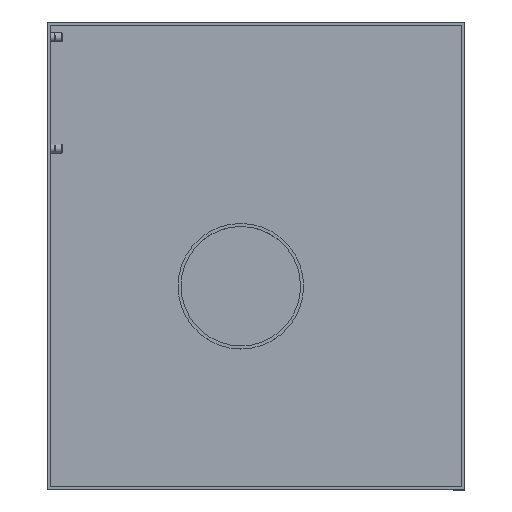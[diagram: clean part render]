
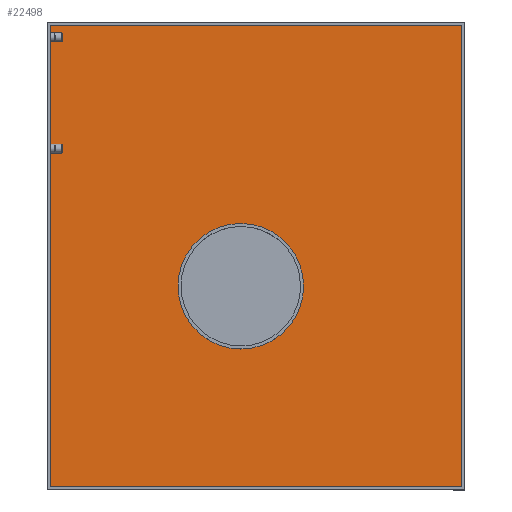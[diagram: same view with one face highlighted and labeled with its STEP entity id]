
A CAD part, top view. The second image highlights one B-rep face of the part: STEP entity #22498.
In plain terms, the highlighted planar face has unit normal (0, 0, 1).
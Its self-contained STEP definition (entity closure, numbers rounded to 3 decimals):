
#218=PLANE('',#23295);
#400=FACE_BOUND('',#3769,.T.);
#2373=FACE_OUTER_BOUND('',#3768,.T.);
#3768=EDGE_LOOP('',(#20503,#20504,#20505,#20506));
#3769=EDGE_LOOP('',(#20507));
#5404=CIRCLE('',#23123,62.);
#7048=LINE('',#54284,#8621);
#7049=LINE('',#54286,#8622);
#7050=LINE('',#54288,#8623);
#7051=LINE('',#54289,#8624);
#8621=VECTOR('',#26406,10.);
#8622=VECTOR('',#26407,10.);
#8623=VECTOR('',#26408,10.);
#8624=VECTOR('',#26409,10.);
#10652=VERTEX_POINT('',#53822);
#10805=VERTEX_POINT('',#54282);
#10806=VERTEX_POINT('',#54283);
#10807=VERTEX_POINT('',#54285);
#10808=VERTEX_POINT('',#54287);
#13836=EDGE_CURVE('',#10652,#10652,#5404,.T.);
#14049=EDGE_CURVE('',#10805,#10806,#7048,.T.);
#14050=EDGE_CURVE('',#10806,#10807,#7049,.T.);
#14051=EDGE_CURVE('',#10807,#10808,#7050,.T.);
#14052=EDGE_CURVE('',#10805,#10808,#7051,.T.);
#20503=ORIENTED_EDGE('',*,*,#14049,.T.);
#20504=ORIENTED_EDGE('',*,*,#14050,.T.);
#20505=ORIENTED_EDGE('',*,*,#14051,.T.);
#20506=ORIENTED_EDGE('',*,*,#14052,.F.);
#20507=ORIENTED_EDGE('',*,*,#13836,.T.);
#22498=ADVANCED_FACE('',(#2373,#400),#218,.T.);
#23123=AXIS2_PLACEMENT_3D('',#53823,#25926,#25927);
#23295=AXIS2_PLACEMENT_3D('',#54281,#26404,#26405);
#25926=DIRECTION('center_axis',(0.,0.,
-1.));
#25927=DIRECTION('ref_axis',(0.,1.,0.));
#26404=DIRECTION('center_axis',(0.,0.,
1.));
#26405=DIRECTION('ref_axis',(1.,0.,0.));
#26406=DIRECTION('',(1.,0.,0.));
#26407=DIRECTION('',(0.,1.,0.));
#26408=DIRECTION('',(-1.,0.,0.));
#26409=DIRECTION('',(0.,1.,0.));
#53822=CARTESIAN_POINT('',(-0.01,62.,3.));
#53823=CARTESIAN_POINT('Origin',(0.,0.,3.));
#54281=CARTESIAN_POINT('Origin',(15.,30.,3.));
#54282=CARTESIAN_POINT('',(-188.,-198.,3.));
#54283=CARTESIAN_POINT('',(218.,-198.,3.));
#54284=CARTESIAN_POINT('',(15.,-198.,3.));
#54285=CARTESIAN_POINT('',(218.,258.,3.));
#54286=CARTESIAN_POINT('',(218.,30.,3.));
#54287=CARTESIAN_POINT('',(-188.,258.,3.));
#54288=CARTESIAN_POINT('',(15.,258.,3.));
#54289=CARTESIAN_POINT('',(-188.,30.,3.));
